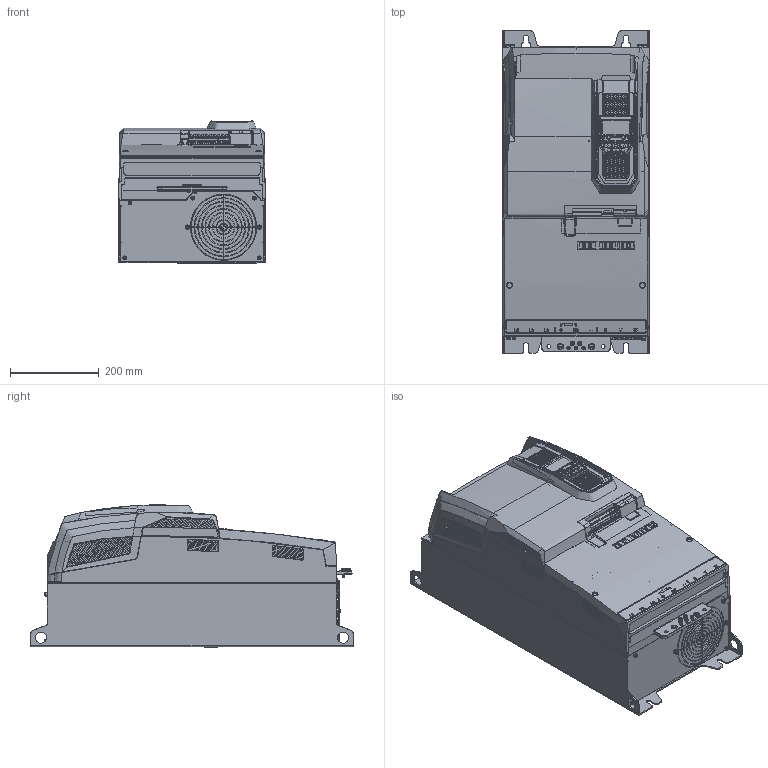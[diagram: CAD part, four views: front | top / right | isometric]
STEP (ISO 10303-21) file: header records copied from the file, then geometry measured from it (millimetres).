
FILE_DESCRIPTION (( 'STEP AP214' ), '1' );
FILE_NAME ('P2.IP20.SIZE6B.TFT (ENVELOPE).STEP', '2022-04-06T15:20:19', ( '' ), ( '' ), 'SwSTEP 2.0', 'SolidWorks 2021', '' );
FILE_SCHEMA (( 'AUTOMOTIVE_DESIGN' ));
Length unit declared in the file: millimetre
Products named in the file (1): P2.IP20.SIZE6B.TFT (ENVELOPE)
Bounding box: 330 x 726 x 319.7 mm (x, y, z)
Volume: 44062 mm3; surface area: 1404259.5 mm2
Topology: 38 solids, 46 shells, 8849 faces, 23574 edges, 15519 vertices
Faces by surface type: plane 6010, bspline 1321, cylinder 1182, cone 203, torus 133
Entity records: 336725 total; most frequent: CARTESIAN_POINT 137939, ORIENTED_EDGE 47124, DIRECTION 31043, EDGE_CURVE 23562, VERTEX_POINT 15523, LINE 12375, VECTOR 12375, EDGE_LOOP 9711
